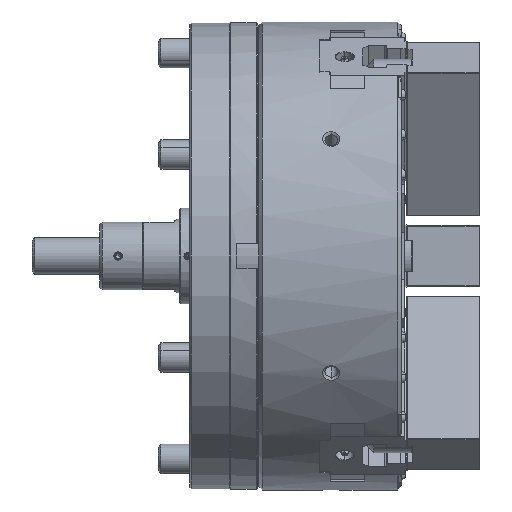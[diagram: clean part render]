
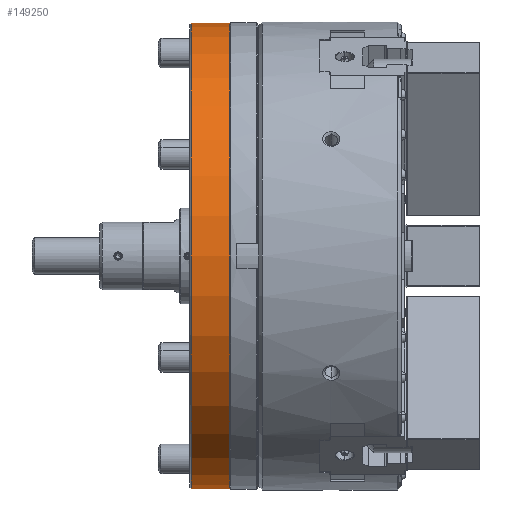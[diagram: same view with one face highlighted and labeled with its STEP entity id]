
A CAD part, front view. The second image highlights one B-rep face of the part: STEP entity #149250.
In plain terms, the highlighted cylindrical face has radius 189.5 mm (diameter 379 mm), a partial arc.
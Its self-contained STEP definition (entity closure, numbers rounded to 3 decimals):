
#1520 = VERTEX_POINT ( 'NONE', #116450 ) ;
#5867 = AXIS2_PLACEMENT_3D ( 'NONE', #24659, #11583, #100572 ) ;
#8447 = CYLINDRICAL_SURFACE ( 'NONE', #138780, 189.5 ) ;
#9294 = DIRECTION ( 'NONE',  ( -1., 0., 0. ) ) ;
#11583 = DIRECTION ( 'NONE',  ( -1., 0., 0. ) ) ;
#12053 = ORIENTED_EDGE ( 'NONE', *, *, #68273, .F. ) ;
#24659 = CARTESIAN_POINT ( 'NONE',  ( -171., 0., 0. ) ) ;
#26208 = DIRECTION ( 'NONE',  ( -1., 0., 0. ) ) ;
#26686 = CIRCLE ( 'NONE', #96280, 189.5 ) ;
#44849 = EDGE_LOOP ( 'NONE', ( #12053, #102137, #127738, #158702 ) ) ;
#47674 = FACE_OUTER_BOUND ( 'NONE', #44849, .T. ) ;
#48011 = CARTESIAN_POINT ( 'NONE',  ( -171., 0., -189.5 ) ) ;
#51521 = DIRECTION ( 'NONE',  ( 0., 0., 1. ) ) ;
#61459 = VERTEX_POINT ( 'NONE', #48011 ) ;
#62121 = EDGE_CURVE ( 'NONE', #61459, #80094, #161786, .T. ) ;
#68273 = EDGE_CURVE ( 'NONE', #1520, #61459, #94205, .T. ) ;
#80094 = VERTEX_POINT ( 'NONE', #108167 ) ;
#88398 = VECTOR ( 'NONE', #159700, 1000. ) ;
#91631 = CARTESIAN_POINT ( 'NONE',  ( -378.898, 0., -189.5 ) ) ;
#91635 = DIRECTION ( 'NONE',  ( -1., 0., 0. ) ) ;
#94205 = LINE ( 'NONE', #91631, #168191 ) ;
#95308 = EDGE_CURVE ( 'NONE', #112213, #80094, #162260, .T. ) ;
#96280 = AXIS2_PLACEMENT_3D ( 'NONE', #160455, #91635, #51521 ) ;
#100572 = DIRECTION ( 'NONE',  ( 0., 0., 1. ) ) ;
#102137 = ORIENTED_EDGE ( 'NONE', *, *, #139993, .T. ) ;
#104231 = CARTESIAN_POINT ( 'NONE',  ( -139.5, 0., 189.5 ) ) ;
#108167 = CARTESIAN_POINT ( 'NONE',  ( -171., 0., 189.5 ) ) ;
#112213 = VERTEX_POINT ( 'NONE', #104231 ) ;
#116450 = CARTESIAN_POINT ( 'NONE',  ( -139.5, 0., -189.5 ) ) ;
#127738 = ORIENTED_EDGE ( 'NONE', *, *, #95308, .T. ) ;
#138780 = AXIS2_PLACEMENT_3D ( 'NONE', #139194, #9294, #155716 ) ;
#139194 = CARTESIAN_POINT ( 'NONE',  ( -378.898, 0., 0. ) ) ;
#139993 = EDGE_CURVE ( 'NONE', #1520, #112213, #26686, .T. ) ;
#146582 = CARTESIAN_POINT ( 'NONE',  ( -378.898, 0., 189.5 ) ) ;
#149250 = ADVANCED_FACE ( 'NONE', ( #47674 ), #8447, .T. ) ;
#155716 = DIRECTION ( 'NONE',  ( 0., 0., 1. ) ) ;
#158702 = ORIENTED_EDGE ( 'NONE', *, *, #62121, .F. ) ;
#159700 = DIRECTION ( 'NONE',  ( -1., 0., 0. ) ) ;
#160455 = CARTESIAN_POINT ( 'NONE',  ( -139.5, 0., 0. ) ) ;
#161786 = CIRCLE ( 'NONE', #5867, 189.5 ) ;
#162260 = LINE ( 'NONE', #146582, #88398 ) ;
#168191 = VECTOR ( 'NONE', #26208, 1000. ) ;
